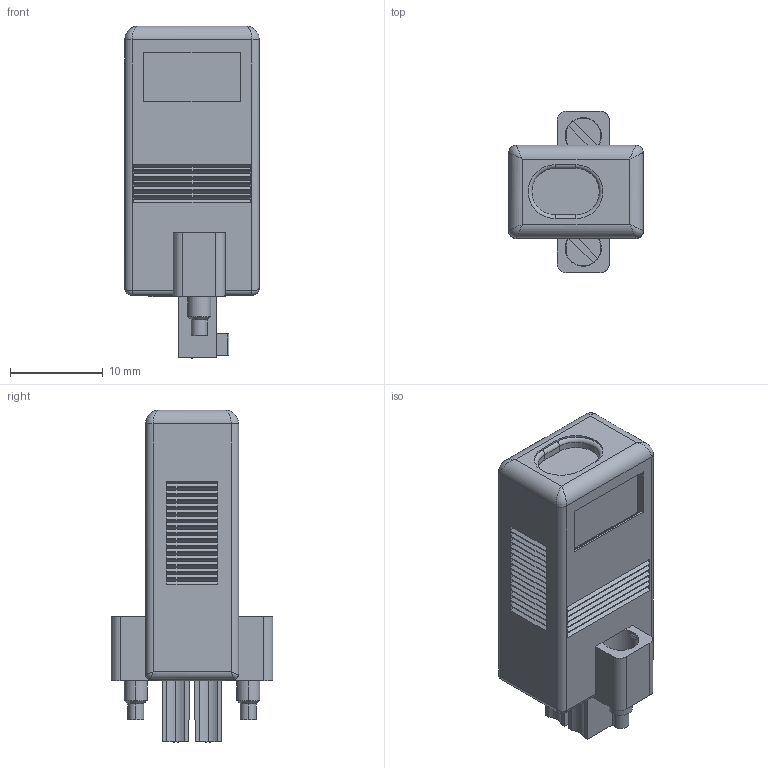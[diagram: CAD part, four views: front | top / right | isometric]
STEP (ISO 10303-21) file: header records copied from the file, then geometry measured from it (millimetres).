
FILE_DESCRIPTION((''),'2;1');
FILE_NAME('CONN_CRIO_2_POS_CMBCN_TB','2007-01-24T',('chrisj'),(''),'PRO/ENGINEER BY PARAMETRIC TECHNOLOGY CORPORATION, 2006080','PRO/ENGINEER BY PARAMETRIC TECHNOLOGY CORPORATION, 2006080','');
FILE_SCHEMA(('AUTOMOTIVE_DESIGN_CC2 { 1 2 10303 214 -1 1 5 2 }'));
Length unit declared in the file: inch
Products named in the file (1): CONN_CRIO_2_POS_CMBCN_TB
Bounding box: 14.5 x 17.4 x 35.75 mm (x, y, z)
Volume: 4093.3 mm3; surface area: 3183.4 mm2
Topology: 1 solids, 1 shells, 586 faces, 1481 edges, 960 vertices
Faces by surface type: plane 417, cylinder 137, torus 12, cone 12, bspline 8
Entity records: 19301 total; most frequent: CARTESIAN_POINT 5150, ORIENTED_EDGE 2946, DIRECTION 2787, EDGE_CURVE 1473, VECTOR 1103, LINE 1103, VERTEX_POINT 960, AXIS2_PLACEMENT_3D 842
